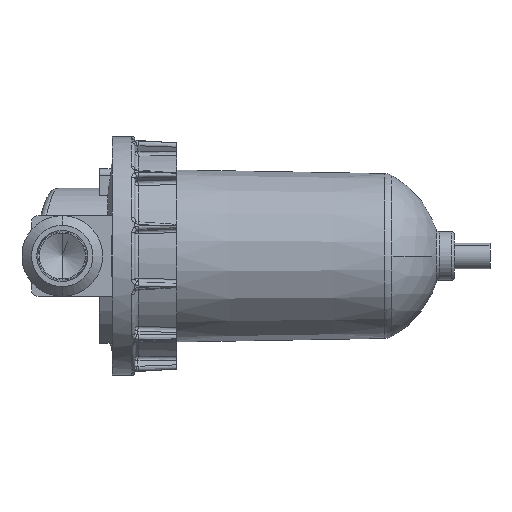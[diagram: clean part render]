
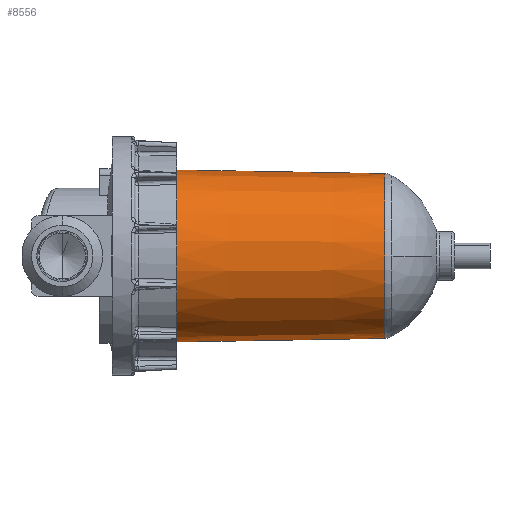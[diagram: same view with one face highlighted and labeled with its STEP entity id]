
A CAD part, left-side view. The second image highlights one B-rep face of the part: STEP entity #8556.
In plain terms, the highlighted conical face has half-angle 1 degrees and reference radius 25.5 mm.
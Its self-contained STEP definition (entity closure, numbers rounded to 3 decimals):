
#407 = VERTEX_POINT ( 'NONE', #4989 ) ;
#413 = CONICAL_SURFACE ( 'NONE', #3985, 25.5, 0.017 ) ;
#975 = CARTESIAN_POINT ( 'NONE',  ( 0., 1.155, 25.52 ) ) ;
#2463 = VERTEX_POINT ( 'NONE', #14034 ) ;
#2730 = ORIENTED_EDGE ( 'NONE', *, *, #13374, .F. ) ;
#2994 = FACE_OUTER_BOUND ( 'NONE', #10071, .T. ) ;
#3985 = AXIS2_PLACEMENT_3D ( 'NONE', #11056, #10130, #9138 ) ;
#4266 = AXIS2_PLACEMENT_3D ( 'NONE', #14558, #10069, #11956 ) ;
#4467 = VERTEX_POINT ( 'NONE', #975 ) ;
#4675 = CARTESIAN_POINT ( 'NONE',  ( 0., 0., 25.5 ) ) ;
#4989 = CARTESIAN_POINT ( 'NONE',  ( 0., 65.5, -26.643 ) ) ;
#5622 = AXIS2_PLACEMENT_3D ( 'NONE', #5667, #12041, #11090 ) ;
#5667 = CARTESIAN_POINT ( 'NONE',  ( 0., 1.155, 0. ) ) ;
#6079 = ORIENTED_EDGE ( 'NONE', *, *, #13504, .F. ) ;
#6116 = LINE ( 'NONE', #4675, #10713 ) ;
#6133 = VERTEX_POINT ( 'NONE', #14059 ) ;
#7371 = VECTOR ( 'NONE', #9547, 1000. ) ;
#8556 = ADVANCED_FACE ( 'NONE', ( #2994 ), #413, .T. ) ;
#9138 = DIRECTION ( 'NONE',  ( 0., 0., 1. ) ) ;
#9536 = ORIENTED_EDGE ( 'NONE', *, *, #9762, .T. ) ;
#9547 = DIRECTION ( 'NONE',  ( 0., 1., -0.017 ) ) ;
#9754 = CIRCLE ( 'NONE', #4266, 26.643 ) ;
#9762 = EDGE_CURVE ( 'NONE', #6133, #407, #10751, .T. ) ;
#10069 = DIRECTION ( 'NONE',  ( 0., 1., 0. ) ) ;
#10071 = EDGE_LOOP ( 'NONE', ( #11546, #9536, #2730, #6079 ) ) ;
#10130 = DIRECTION ( 'NONE',  ( 0., 1., 0. ) ) ;
#10713 = VECTOR ( 'NONE', #14395, 1000. ) ;
#10751 = LINE ( 'NONE', #14293, #7371 ) ;
#11056 = CARTESIAN_POINT ( 'NONE',  ( 0., 0., 0. ) ) ;
#11090 = DIRECTION ( 'NONE',  ( 0., 0., -1. ) ) ;
#11546 = ORIENTED_EDGE ( 'NONE', *, *, #13307, .T. ) ;
#11956 = DIRECTION ( 'NONE',  ( 0., 0., 1. ) ) ;
#12041 = DIRECTION ( 'NONE',  ( 0., 1., 0. ) ) ;
#12588 = CIRCLE ( 'NONE', #5622, 25.52 ) ;
#13307 = EDGE_CURVE ( 'NONE', #4467, #6133, #12588, .T. ) ;
#13374 = EDGE_CURVE ( 'NONE', #2463, #407, #9754, .T. ) ;
#13504 = EDGE_CURVE ( 'NONE', #4467, #2463, #6116, .T. ) ;
#14034 = CARTESIAN_POINT ( 'NONE',  ( 0., 65.5, 26.643 ) ) ;
#14059 = CARTESIAN_POINT ( 'NONE',  ( 0., 1.155, -25.52 ) ) ;
#14293 = CARTESIAN_POINT ( 'NONE',  ( 0., 0., -25.5 ) ) ;
#14395 = DIRECTION ( 'NONE',  ( 0., 1., 0.017 ) ) ;
#14558 = CARTESIAN_POINT ( 'NONE',  ( 0., 65.5, 0. ) ) ;
